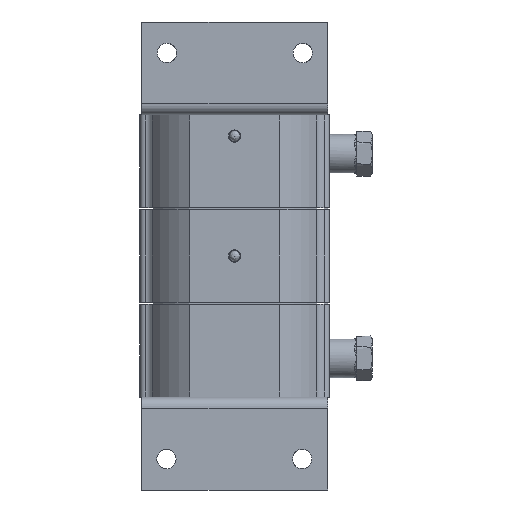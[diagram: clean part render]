
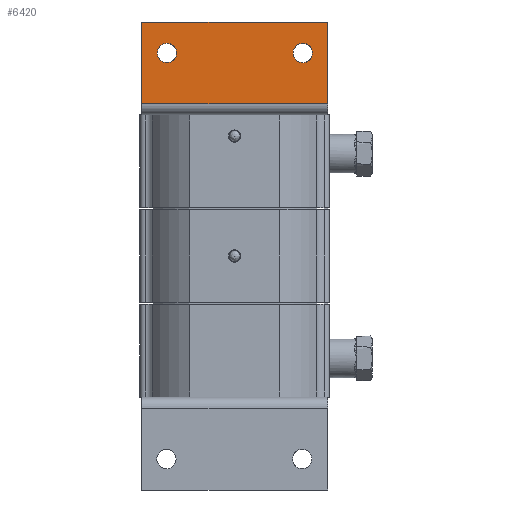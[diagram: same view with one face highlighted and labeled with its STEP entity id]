
A CAD part, front view. The second image highlights one B-rep face of the part: STEP entity #6420.
In plain terms, the highlighted planar face has unit normal (0, 1, 0).
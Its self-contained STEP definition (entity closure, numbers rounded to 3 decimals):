
#6420 = ADVANCED_FACE ( 'NONE', ( #81808, #81805, #81800 ), #73517, .T. ) ;
#13814 = VERTEX_POINT ( 'NONE', #69826 ) ;
#13815 = VERTEX_POINT ( 'NONE', #69827 ) ;
#13825 = VERTEX_POINT ( 'NONE', #69837 ) ;
#13840 = VERTEX_POINT ( 'NONE', #69852 ) ;
#20689 = CIRCLE ( 'NONE', #30305, 3.969 ) ;
#20691 = LINE ( 'NONE', #25091, #20701 ) ;
#20695 = CIRCLE ( 'NONE', #30306, 3.969 ) ;
#20701 = VECTOR ( 'NONE', #25079, 1000. ) ;
#20704 = LINE ( 'NONE', #25116, #20707 ) ;
#20707 = VECTOR ( 'NONE', #25119, 1000. ) ;
#20732 = LINE ( 'NONE', #26206, #20734 ) ;
#20734 = VECTOR ( 'NONE', #26261, 1000. ) ;
#20743 = LINE ( 'NONE', #26822, #20750 ) ;
#20750 = VECTOR ( 'NONE', #26666, 1000. ) ;
#25079 = DIRECTION ( 'NONE',  ( 1., 0., 0. ) ) ;
#25084 = CARTESIAN_POINT ( 'NONE',  ( 27.94, -60.325, 65.189 ) ) ;
#25086 = DIRECTION ( 'NONE',  ( 0., -1., 0. ) ) ;
#25088 = DIRECTION ( 'NONE',  ( 1., 0., 0. ) ) ;
#25091 = CARTESIAN_POINT ( 'NONE',  ( 38.1, -60.325, 77.889 ) ) ;
#25093 = CARTESIAN_POINT ( 'NONE',  ( -27.686, -60.325, 65.189 ) ) ;
#25095 = DIRECTION ( 'NONE',  ( 0., -1., 0. ) ) ;
#25097 = DIRECTION ( 'NONE',  ( 1., 0., 0. ) ) ;
#25116 = CARTESIAN_POINT ( 'NONE',  ( -38.1, -60.325, 39.789 ) ) ;
#25119 = DIRECTION ( 'NONE',  ( 0., 0., -1. ) ) ;
#26206 = CARTESIAN_POINT ( 'NONE',  ( 38.1, -60.325, 44.414 ) ) ;
#26261 = DIRECTION ( 'NONE',  ( -1., 0., 0. ) ) ;
#26666 = DIRECTION ( 'NONE',  ( 0., 0., -1. ) ) ;
#26822 = CARTESIAN_POINT ( 'NONE',  ( 38.1, -60.325, 39.789 ) ) ;
#30305 = AXIS2_PLACEMENT_3D ( 'NONE', #25084, #25086, #25088 ) ;
#30306 = AXIS2_PLACEMENT_3D ( 'NONE', #25093, #25095, #25097 ) ;
#35338 = EDGE_CURVE ( 'NONE', #60266, #60266, #20689, .T. ) ;
#35342 = EDGE_CURVE ( 'NONE', #60268, #60268, #20695, .T. ) ;
#35352 = EDGE_CURVE ( 'NONE', #13840, #13815, #20691, .T. ) ;
#35363 = EDGE_CURVE ( 'NONE', #13840, #13825, #20704, .T. ) ;
#35435 = EDGE_CURVE ( 'NONE', #13814, #13825, #20732, .T. ) ;
#35463 = EDGE_CURVE ( 'NONE', #13815, #13814, #20743, .T. ) ;
#43289 = ORIENTED_EDGE ( 'NONE', *, *, #35342, .T. ) ;
#43445 = ORIENTED_EDGE ( 'NONE', *, *, #35435, .T. ) ;
#43447 = ORIENTED_EDGE ( 'NONE', *, *, #35463, .T. ) ;
#43453 = ORIENTED_EDGE ( 'NONE', *, *, #35352, .T. ) ;
#43467 = ORIENTED_EDGE ( 'NONE', *, *, #35363, .F. ) ;
#43481 = ORIENTED_EDGE ( 'NONE', *, *, #35338, .T. ) ;
#46832 = AXIS2_PLACEMENT_3D ( 'NONE', #73514, #73408, #73521 ) ;
#55878 = EDGE_LOOP ( 'NONE', ( #43447, #43445, #43467, #43453 ) ) ;
#55884 = EDGE_LOOP ( 'NONE', ( #43289 ) ) ;
#55896 = EDGE_LOOP ( 'NONE', ( #43481 ) ) ;
#57419 = CARTESIAN_POINT ( 'NONE',  ( 31.909, -60.325, 65.189 ) ) ;
#57420 = CARTESIAN_POINT ( 'NONE',  ( -23.717, -60.325, 65.189 ) ) ;
#60266 = VERTEX_POINT ( 'NONE', #57419 ) ;
#60268 = VERTEX_POINT ( 'NONE', #57420 ) ;
#69826 = CARTESIAN_POINT ( 'NONE',  ( 38.1, -60.325, 44.414 ) ) ;
#69827 = CARTESIAN_POINT ( 'NONE',  ( 38.1, -60.325, 77.889 ) ) ;
#69837 = CARTESIAN_POINT ( 'NONE',  ( -38.1, -60.325, 44.414 ) ) ;
#69852 = CARTESIAN_POINT ( 'NONE',  ( -38.1, -60.325, 77.889 ) ) ;
#73408 = DIRECTION ( 'NONE',  ( 0., 1., 0. ) ) ;
#73514 = CARTESIAN_POINT ( 'NONE',  ( 38.1, -60.325, 90.589 ) ) ;
#73517 = PLANE ( 'NONE',  #46832 ) ;
#73521 = DIRECTION ( 'NONE',  ( -1., 0., 0. ) ) ;
#81800 = FACE_BOUND ( 'NONE', #55896, .T. ) ;
#81805 = FACE_BOUND ( 'NONE', #55884, .T. ) ;
#81808 = FACE_OUTER_BOUND ( 'NONE', #55878, .T. ) ;
